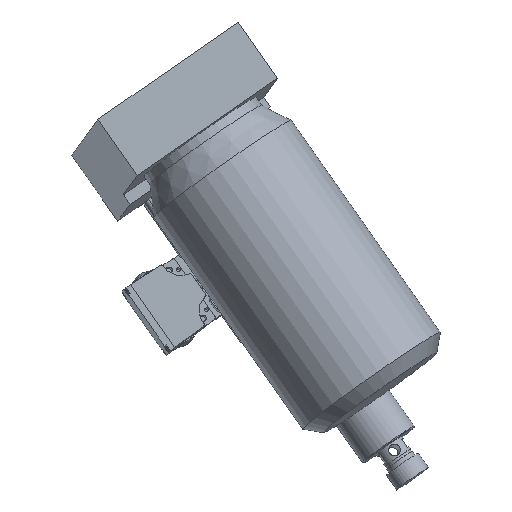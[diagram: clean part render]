
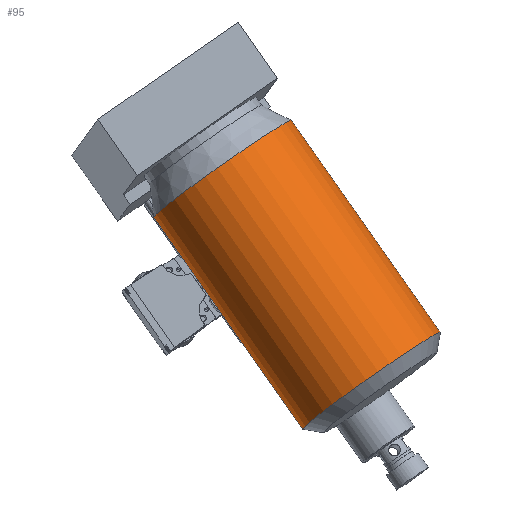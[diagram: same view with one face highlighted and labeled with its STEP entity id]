
A CAD part, top view. The second image highlights one B-rep face of the part: STEP entity #95.
In plain terms, the highlighted cylindrical face has radius 86 mm (diameter 172 mm), a full revolution.
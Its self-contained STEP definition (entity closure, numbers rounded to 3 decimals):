
#68=CARTESIAN_POINT('',(62.961,-47.484,297.076));
#69=DIRECTION('',(-0.574,0.818,-0.042));
#70=DIRECTION('',(-0.815,-0.566,0.125));
#71=AXIS2_PLACEMENT_3D('',#68,#69,#70);
#72=CYLINDRICAL_SURFACE('',#71,86.);
#73=CARTESIAN_POINT('',(-83.209,12.183,302.239));
#74=VERTEX_POINT('',#73);
#75=CARTESIAN_POINT('',(-13.127,60.846,291.448));
#76=DIRECTION('',(-0.574,0.818,-0.042));
#77=DIRECTION('',(-0.815,-0.566,0.125));
#78=AXIS2_PLACEMENT_3D('',#75,#76,#77);
#79=CIRCLE('',#78,86.);
#80=EDGE_CURVE('',#74,#74,#79,.T.);
#81=ORIENTED_EDGE('',*,*,#80,.F.);
#82=EDGE_LOOP('',(#81));
#83=FACE_OUTER_BOUND('',#82,.T.);
#84=CARTESIAN_POINT('',(68.967,-204.476,313.494));
#85=VERTEX_POINT('',#84);
#86=CARTESIAN_POINT('',(139.049,-155.813,302.703));
#87=DIRECTION('',(-0.574,0.818,-0.042));
#88=DIRECTION('',(-0.815,-0.566,0.125));
#89=AXIS2_PLACEMENT_3D('',#86,#87,#88);
#90=CIRCLE('',#89,86.);
#91=EDGE_CURVE('',#85,#85,#90,.T.);
#92=ORIENTED_EDGE('',*,*,#91,.T.);
#93=EDGE_LOOP('',(#92));
#94=FACE_BOUND('',#93,.T.);
#95=ADVANCED_FACE('',(#83,#94),#72,.T.);
